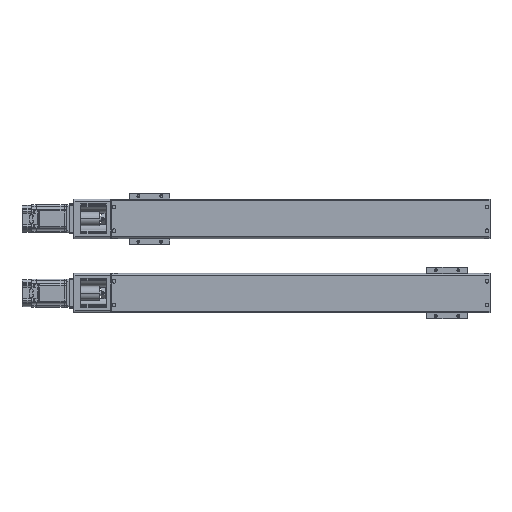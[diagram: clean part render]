
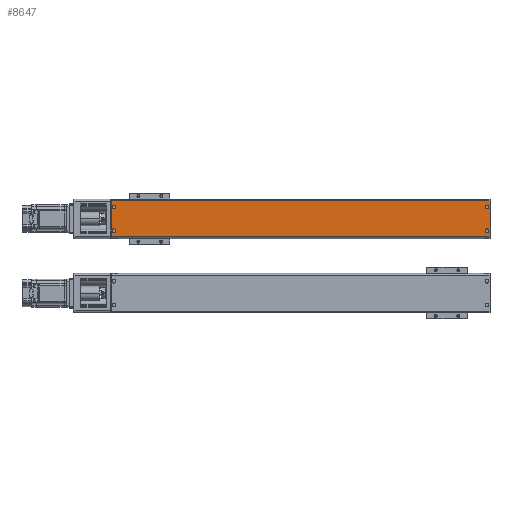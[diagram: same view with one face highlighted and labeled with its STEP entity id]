
A CAD part, top view. The second image highlights one B-rep face of the part: STEP entity #8647.
In plain terms, the highlighted planar face has unit normal (0, 0, 1).
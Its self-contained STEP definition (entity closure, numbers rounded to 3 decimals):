
#8647=ADVANCED_FACE('',(#18200,#18201,#18202,#18203,#18204),#18205,.F.);
#18200=FACE_OUTER_BOUND('',#30134,.T.);
#18201=FACE_BOUND('',#30135,.T.);
#18202=FACE_BOUND('',#30136,.T.);
#18203=FACE_BOUND('',#30137,.T.);
#18204=FACE_BOUND('',#30138,.T.);
#18205=PLANE('',#30139);
#30134=EDGE_LOOP('',(#55024,#55025,#55026,#55027));
#30135=EDGE_LOOP('',(#55028,#55029));
#30136=EDGE_LOOP('',(#55030,#55031));
#30137=EDGE_LOOP('',(#55032,#55033));
#30138=EDGE_LOOP('',(#55034,#55035));
#30139=AXIS2_PLACEMENT_3D('',#55036,#55037,#55038);
#55024=ORIENTED_EDGE('',*,*,#70242,.T.);
#55025=ORIENTED_EDGE('',*,*,#64948,.F.);
#55026=ORIENTED_EDGE('',*,*,#65612,.F.);
#55027=ORIENTED_EDGE('',*,*,#73742,.T.);
#55028=ORIENTED_EDGE('',*,*,#71946,.F.);
#55029=ORIENTED_EDGE('',*,*,#66950,.F.);
#55030=ORIENTED_EDGE('',*,*,#73743,.F.);
#55031=ORIENTED_EDGE('',*,*,#73348,.F.);
#55032=ORIENTED_EDGE('',*,*,#73744,.F.);
#55033=ORIENTED_EDGE('',*,*,#65591,.F.);
#55034=ORIENTED_EDGE('',*,*,#63932,.F.);
#55035=ORIENTED_EDGE('',*,*,#71727,.F.);
#55036=CARTESIAN_POINT('',(752.0,146.0,21.64));
#55037=DIRECTION('',(0.0,0.,-1.0));
#55038=DIRECTION('',(0.0,1.0,0.));
#63932=EDGE_CURVE('',#75963,#75959,#75965,.F.);
#64948=EDGE_CURVE('',#77786,#77781,#77788,.T.);
#65591=EDGE_CURVE('',#78902,#78904,#78905,.F.);
#65612=EDGE_CURVE('',#78942,#77786,#78944,.T.);
#66950=EDGE_CURVE('',#81173,#81175,#81176,.F.);
#70242=EDGE_CURVE('',#86228,#77781,#86229,.T.);
#71727=EDGE_CURVE('',#75959,#75963,#88271,.F.);
#71946=EDGE_CURVE('',#81175,#81173,#88559,.F.);
#73348=EDGE_CURVE('',#90289,#90291,#90292,.F.);
#73742=EDGE_CURVE('',#78942,#86228,#90755,.T.);
#73743=EDGE_CURVE('',#90291,#90289,#90756,.F.);
#73744=EDGE_CURVE('',#78904,#78902,#90757,.F.);
#75959=VERTEX_POINT('',#93290);
#75963=VERTEX_POINT('',#93295);
#75965=CIRCLE('',#93298,3.8);
#77781=VERTEX_POINT('',#95864);
#77786=VERTEX_POINT('',#95870);
#77788=LINE('',#95872,#95873);
#78902=VERTEX_POINT('',#97325);
#78904=VERTEX_POINT('',#97328);
#78905=CIRCLE('',#97329,3.8);
#78942=VERTEX_POINT('',#97382);
#78944=LINE('',#97384,#97385);
#81173=VERTEX_POINT('',#100412);
#81175=VERTEX_POINT('',#100415);
#81176=CIRCLE('',#100416,3.8);
#86228=VERTEX_POINT('',#108306);
#86229=LINE('',#108307,#108308);
#88271=CIRCLE('',#111228,3.8);
#88559=CIRCLE('',#111656,3.8);
#90289=VERTEX_POINT('',#114156);
#90291=VERTEX_POINT('',#114159);
#90292=CIRCLE('',#114160,3.8);
#90755=LINE('',#114814,#114815);
#90756=CIRCLE('',#114816,3.8);
#90757=CIRCLE('',#114817,3.8);
#93290=CARTESIAN_POINT('',(-7.0,81.7,21.64));
#93295=CARTESIAN_POINT('',(-7.0,89.3,21.64));
#93298=AXIS2_PLACEMENT_3D('',#117978,#117979,#117980);
#95864=CARTESIAN_POINT('',(-13.0,73.,21.64));
#95870=CARTESIAN_POINT('',(752.0,73.,21.64));
#95872=CARTESIAN_POINT('',(752.0,73.,21.64));
#95873=VECTOR('',#119443,1000.0);
#97325=CARTESIAN_POINT('',(-7.0,129.7,21.64));
#97328=CARTESIAN_POINT('',(-7.0,137.3,21.64));
#97329=AXIS2_PLACEMENT_3D('',#120366,#120367,#120368);
#97382=CARTESIAN_POINT('',(752.0,146.0,21.64));
#97384=CARTESIAN_POINT('',(752.0,146.0,21.64));
#97385=VECTOR('',#120394,1000.0);
#100412=CARTESIAN_POINT('',(746.0,81.7,21.64));
#100415=CARTESIAN_POINT('',(746.0,89.3,21.64));
#100416=AXIS2_PLACEMENT_3D('',#122241,#122242,#122243);
#108306=CARTESIAN_POINT('',(-13.0,146.0,21.64));
#108307=CARTESIAN_POINT('',(-13.0,146.0,21.64));
#108308=VECTOR('',#126367,1000.0);
#111228=AXIS2_PLACEMENT_3D('',#128253,#128254,#128255);
#111656=AXIS2_PLACEMENT_3D('',#128521,#128522,#128523);
#114156=CARTESIAN_POINT('',(746.0,129.7,21.64));
#114159=CARTESIAN_POINT('',(746.0,137.3,21.64));
#114160=AXIS2_PLACEMENT_3D('',#130070,#130071,#130072);
#114814=CARTESIAN_POINT('',(752.0,146.0,21.64));
#114815=VECTOR('',#130449,1000.0);
#114816=AXIS2_PLACEMENT_3D('',#130450,#130451,#130452);
#114817=AXIS2_PLACEMENT_3D('',#130453,#130454,#130455);
#117978=CARTESIAN_POINT('',(-7.0,85.5,21.64));
#117979=DIRECTION('',(0.0,0.,-1.0));
#117980=DIRECTION('',(0.0,1.0,0.));
#119443=DIRECTION('',(-1.0,0.0,-0.0));
#120366=CARTESIAN_POINT('',(-7.0,133.5,21.64));
#120367=DIRECTION('',(0.0,0.,-1.0));
#120368=DIRECTION('',(0.0,1.0,0.));
#120394=DIRECTION('',(0.0,-1.0,0.));
#122241=CARTESIAN_POINT('',(746.0,85.5,21.64));
#122242=DIRECTION('',(0.0,0.,-1.0));
#122243=DIRECTION('',(0.0,1.0,0.));
#126367=DIRECTION('',(0.0,-1.0,0.));
#128253=CARTESIAN_POINT('',(-7.0,85.5,21.64));
#128254=DIRECTION('',(0.0,0.,-1.0));
#128255=DIRECTION('',(0.0,1.0,0.));
#128521=CARTESIAN_POINT('',(746.0,85.5,21.64));
#128522=DIRECTION('',(0.0,0.,-1.0));
#128523=DIRECTION('',(0.0,1.0,0.));
#130070=CARTESIAN_POINT('',(746.0,133.5,21.64));
#130071=DIRECTION('',(0.0,0.,-1.0));
#130072=DIRECTION('',(0.0,1.0,0.));
#130449=DIRECTION('',(-1.0,0.0,-0.0));
#130450=CARTESIAN_POINT('',(746.0,133.5,21.64));
#130451=DIRECTION('',(0.0,0.,-1.0));
#130452=DIRECTION('',(0.0,1.0,0.));
#130453=CARTESIAN_POINT('',(-7.0,133.5,21.64));
#130454=DIRECTION('',(0.0,0.,-1.0));
#130455=DIRECTION('',(0.0,1.0,0.));
